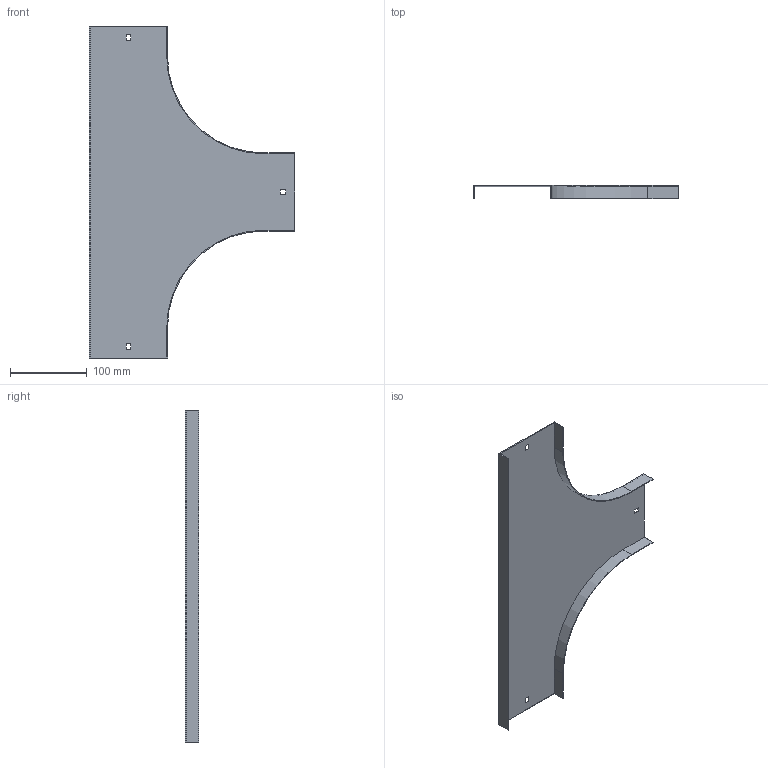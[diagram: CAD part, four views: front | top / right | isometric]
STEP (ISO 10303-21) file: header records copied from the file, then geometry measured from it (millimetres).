
FILE_DESCRIPTION (( 'STEP AP214' ), '1' );
FILE_NAME ('OT_100.step', '2025-07-16T09:17:57', ( '' ), ( '' ), 'SwSTEP 2.0', 'SolidWorks 2023', '' );
FILE_SCHEMA (( 'AUTOMOTIVE_DESIGN' ));
Length unit declared in the file: millimetre
Products named in the file (1): OT_100
Bounding box: 268 x 17 x 434 mm (x, y, z)
Volume: 83750.6 mm3; surface area: 168971.1 mm2
Topology: 1 solids, 1 shells, 34 faces, 96 edges, 64 vertices
Faces by surface type: plane 30, cylinder 4
Entity records: 1123 total; most frequent: CARTESIAN_POINT 195, ORIENTED_EDGE 192, DIRECTION 174, EDGE_CURVE 96, VECTOR 88, LINE 88, VERTEX_POINT 64, AXIS2_PLACEMENT_3D 43
